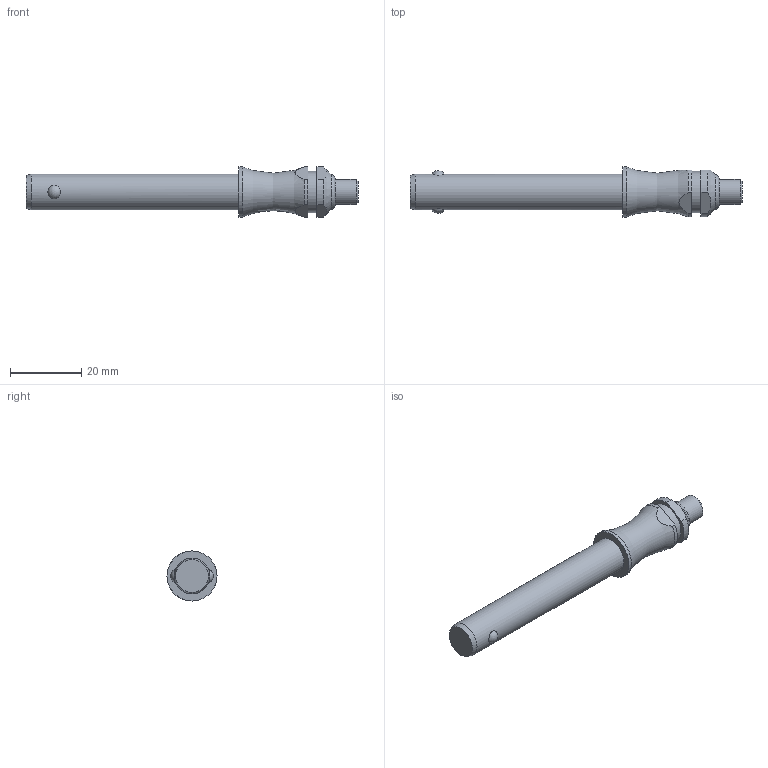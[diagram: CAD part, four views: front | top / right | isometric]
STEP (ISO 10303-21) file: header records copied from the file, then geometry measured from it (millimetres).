
FILE_DESCRIPTION( ( 'STEP AP203' ), '1' );
FILE_NAME( 'C:/Temp/Ganter_Step_05_03_2020/data/3_1/gn113_3/Stainless Steel-Ball lock pin GN 113.3-10-50 (deactivated).stp', '2020-03-12T08:18:35', ( 'License CC BY-ND 4.0' ), ( 'CADENAS' ), ' ', 'PARTsolutions', ' ' );
FILE_SCHEMA( ( 'CONFIG_CONTROL_DESIGN' ) );
Length unit declared in the file: millimetre
Products named in the file (1): _Stainless Steel-Ball lock pin GN 113.3-10-50 (deactivated)
Bounding box: 92.9 x 14 x 14 mm (x, y, z)
Volume: 7906.4 mm3; surface area: 3331.4 mm2
Topology: 1 solids, 1 shells, 28 faces, 60 edges, 39 vertices
Faces by surface type: plane 11, cylinder 10, cone 3, torus 2, sphere 2
Full cylindrical faces by diameter (mm): 7 x1, 10 x1, 11.6 x1, 14 x1
Entity records: 940 total; most frequent: CARTESIAN_POINT 327, DIRECTION 122, ORIENTED_EDGE 98, AXIS2_PLACEMENT_3D 52, EDGE_CURVE 49, EDGE_LOOP 42, VERTEX_POINT 37, FACE_OUTER_BOUND 34
